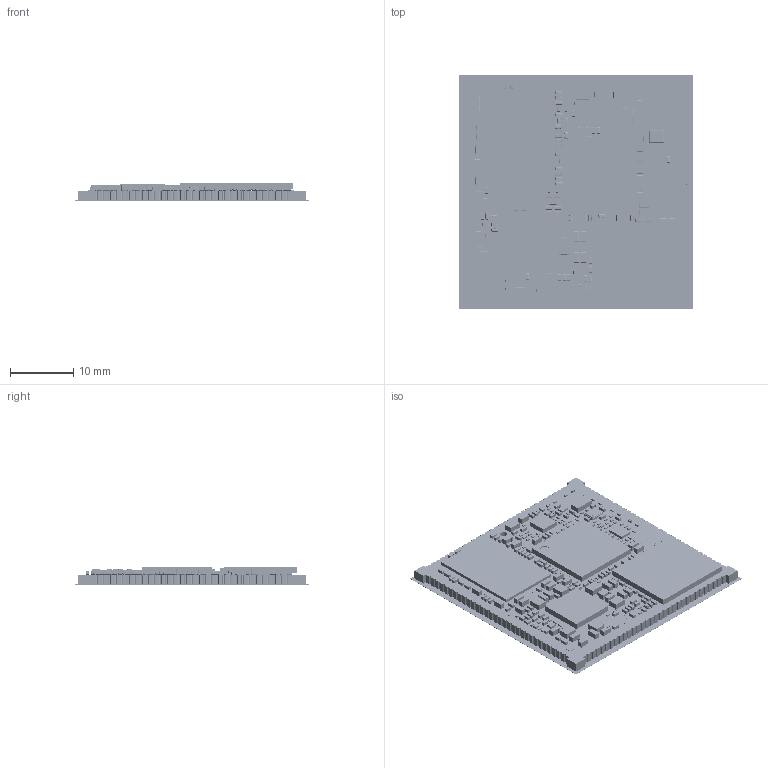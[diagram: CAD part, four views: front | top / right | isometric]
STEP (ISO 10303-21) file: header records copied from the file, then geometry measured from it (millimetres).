
FILE_DESCRIPTION(('STEP AP214'),'1');
FILE_NAME('Board1_BoardAndModels.step','2025-04-11T08:04:45',(' '),(' '),'Spatial InterOp 3D','XD3DPlugin XRACreate',' ');
FILE_SCHEMA(('automotive_design'));
Length unit declared in the file: millimetre
Products named in the file (135): Submodel-N:\GROUP\DEVELOP\HARDWARE\PCL-077_phyCORE-i.MX93\Design\1607.4\001\PCL-077\Board1_PCB\Layout\3D\Input_S\GRM155R71C224KA12D.xtd; GRM155R71C224KA12D; Submodel-CAP1363_part_simplified_0402-C3; DesignRootModel; Submodel-N:\GROUP\DEVELOP\HARDWARE\PCL-077_phyCORE-i.MX93\Design\1607.4\001\PCL-077\Board1_PCB\Layout\3D\Input_S\RC0603F1005CS.xtd; RC0603F1005CS; Submodel-RES5803_part_simplified_0201; Submodel-N:\GROUP\DEVELOP\HARDWARE\PCL-077_phyCORE-i.MX93\Design\1607.4\001\PCL-077\Board1_PCB\Layout\3D\Input_S\GRM155R70J105KA12J.xtd; GRM155R70J105KA12J; Submodel-CAP4183_part_simplified_0402-C3; Submodel-N:\GROUP\DEVELOP\HARDWARE\PCL-077_phyCORE-i.MX93\Design\1607.4\001\PCL-077\Board1_PCB\Layout\3D\Input_S\CRCW020110R7JNEF.xtd; CRCW020110R7JNEF; Submodel-RES5653_part_simplified_0201; Submodel-N:\GROUP\DEVELOP\HARDWARE\PCL-077_phyCORE-i.MX93\Design\1607.4\001\PCL-077\Board1_PCB\Layout\3D\Input_S\JUMP32.xtd; JUMP32; Submodel-JUMP32_part_simplified_J1X3-0402-C3; Submodel-N:\GROUP\DEVELOP\HARDWARE\PCL-077_phyCORE-i.MX93\Design\1607.4\001\PCL-077\Board1_PCB\Layout\3D\Input_S\REMOVE_CONN10323.xtd; REMOVE_CONN10323; Submodel-CONN10323_part_simplified_Testpunkt-1mm; Submodel-N:\GROUP\DEVELOP\HARDWARE\PCL-077_phyCORE-i.MX93\Design\1607.4\001\PCL-077\Board1_PCB\Layout\3D\Input_S\qr_4mm-QR Code 4mm.xtd; qr_4mm-QR Code 4mm; Submodel-MECH1053_part_simplified_DMC-4mm-Laser; Submodel-N:\GROUP\DEVELOP\HARDWARE\PCL-077_phyCORE-i.MX93\Design\1607.4\001\PCL-077\Board1_PCB\Layout\3D\Input_S\LQM2MPNR47NG0.xtd; LQM2MPNR47NG0; Submodel-IND2133_part_simplified_2016-DFE2016; Submodel-CAP3663_part_simplified_0402-C3; Submodel-N:\GROUP\DEVELOP\HARDWARE\PCL-077_phyCORE-i.MX93\Design\1607.4\001\PCL-077\Board1_PCB\Layout\3D\Input_S\GRM188Z71A106KA73D.xtd; GRM188Z71A106KA73D; Submodel-CAP3343_part_simplified_0603-C3; Submodel-N:\GROUP\DEVELOP\HARDWARE\PCL-077_phyCORE-i.MX93\Design\1607.4\001\PCL-077\Board1_PCB\Layout\3D\Input_S\XTAL_JTX310_JAU.xtd; XTAL_JTX310_JAU; Submodel-OSC873_part_simplified_QQ-JTX310-C3; Submodel-RES5693_part_simplified_0201; Submodel-N:\GROUP\DEVELOP\HARDWARE\PCL-077_phyCORE-i.MX93\Design\1607.4\001\PCL-077\Board1_PCB\Layout\3D\Input_S\OSC923.xtd; OSC923; Submodel-OSC923_part_simplified_QQ-2_comma_5x2mm-JXS22; Submodel-N:\GROUP\DEVELOP\HARDWARE\PCL-077_phyCORE-i.MX93\Design\1607.4\001\PCL-077\Board1_PCB\Layout\3D\Input_S\REMOVE_CONN2292.xtd; REMOVE_CONN2292; Submodel-CONN2292_part_simplified_Testpunkt-1mm; Submodel-N:\GROUP\DEVELOP\HARDWARE\PCL-077_phyCORE-i.MX93\Design\1607.4\001\PCL-077\Board1_PCB\Layout\3D\Input_S\GRM155R71C104KA88D.xtd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
Assembly tree (374 placements, depth 5):
  Board1_BoardAndModels
    DesignRootModel
      Submodel-CAP1363_part_simplified_0402-C3  x4
        Submodel-N:\GROUP\DEVELOP\HARDWARE\PCL-077_phyCORE-i.MX93\Design\1607.4\001\PCL-077\Board1_PCB\Layout\3D\Input_S\GRM155R71C224KA12D.xtd
          GRM155R71C224KA12D
      Submodel-RES5803_part_simplified_0201  x12
        Submodel-N:\GROUP\DEVELOP\HARDWARE\PCL-077_phyCORE-i.MX93\Design\1607.4\001\PCL-077\Board1_PCB\Layout\3D\Input_S\RC0603F1005CS.xtd
          RC0603F1005CS
      Submodel-CAP4183_part_simplified_0402-C3  x70
        Submodel-N:\GROUP\DEVELOP\HARDWARE\PCL-077_phyCORE-i.MX93\Design\1607.4\001\PCL-077\Board1_PCB\Layout\3D\Input_S\GRM155R70J105KA12J.xtd
          GRM155R70J105KA12J
      Submodel-RES5653_part_simplified_0201  x8
        Submodel-N:\GROUP\DEVELOP\HARDWARE\PCL-077_phyCORE-i.MX93\Design\1607.4\001\PCL-077\Board1_PCB\Layout\3D\Input_S\CRCW020110R7JNEF.xtd
          CRCW020110R7JNEF
      Submodel-JUMP32_part_simplified_J1X3-0402-C3  x6
        Submodel-N:\GROUP\DEVELOP\HARDWARE\PCL-077_phyCORE-i.MX93\Design\1607.4\001\PCL-077\Board1_PCB\Layout\3D\Input_S\JUMP32.xtd
          JUMP32
      Submodel-CONN10323_part_simplified_Testpunkt-1mm  x12
        Submodel-N:\GROUP\DEVELOP\HARDWARE\PCL-077_phyCORE-i.MX93\Design\1607.4\001\PCL-077\Board1_PCB\Layout\3D\Input_S\REMOVE_CONN10323.xtd
          REMOVE_CONN10323
      Submodel-MECH1053_part_simplified_DMC-4mm-Laser
        Submodel-N:\GROUP\DEVELOP\HARDWARE\PCL-077_phyCORE-i.MX93\Design\1607.4\001\PCL-077\Board1_PCB\Layout\3D\Input_S\qr_4mm-QR Code 4mm.xtd
          qr_4mm-QR Code 4mm
      Submodel-IND2133_part_simplified_2016-DFE2016  x6
        Submodel-N:\GROUP\DEVELOP\HARDWARE\PCL-077_phyCORE-i.MX93\Design\1607.4\001\PCL-077\Board1_PCB\Layout\3D\Input_S\LQM2MPNR47NG0.xtd
          LQM2MPNR47NG0
      Submodel-CAP3663_part_simplified_0402-C3  x2
        Submodel-N:\GROUP\DEVELOP\HARDWARE\PCL-077_phyCORE-i.MX93\Design\1607.4\001\PCL-077\Board1_PCB\Layout\3D\Input_S\GRM155R71C224KA12D.xtd
          GRM155R71C224KA12D
      Submodel-CAP3343_part_simplified_0603-C3  x28
        Submodel-N:\GROUP\DEVELOP\HARDWARE\PCL-077_phyCORE-i.MX93\Design\1607.4\001\PCL-077\Board1_PCB\Layout\3D\Input_S\GRM188Z71A106KA73D.xtd
          GRM188Z71A106KA73D
      Submodel-OSC873_part_simplified_QQ-JTX310-C3
        Submodel-N:\GROUP\DEVELOP\HARDWARE\PCL-077_phyCORE-i.MX93\Design\1607.4\001\PCL-077\Board1_PCB\Layout\3D\Input_S\XTAL_JTX310_JAU.xtd
          XTAL_JTX310_JAU
      Submodel-RES5693_part_simplified_0201  x6
        Submodel-N:\GROUP\DEVELOP\HARDWARE\PCL-077_phyCORE-i.MX93\Design\1607.4\001\PCL-077\Board1_PCB\Layout\3D\Input_S\RC0603F1005CS.xtd
          RC0603F1005CS
      Submodel-OSC923_part_simplified_QQ-2_comma_5x2mm-JXS22
        Submodel-N:\GROUP\DEVELOP\HARDWARE\PCL-077_phyCORE-i.MX93\Design\1607.4\001\PCL-077\Board1_PCB\Layout\3D\Input_S\OSC923.xtd
          OSC923
      Submodel-CONN2292_part_simplified_Testpunkt-1mm  x2
        Submodel-N:\GROUP\DEVELOP\HARDWARE\PCL-077_phyCORE-i.MX93\Design\1607.4\001\PCL-077\Board1_PCB\Layout\3D\Input_S\REMOVE_CONN2292.xtd
          REMOVE_CONN2292
      Submodel-CAP722_part_simplified_0402-C3  x25
        Submodel-N:\GROUP\DEVELOP\HARDWARE\PCL-077_phyCORE-i.MX93\Design\1607.4\001\PCL-077\Board1_PCB\Layout\3D\Input_S\GRM155R71C104KA88D.xtd
          GRM155R71C104KA88D
      Submodel-RES2872_part_simplified_0402-C3
        Submodel-N:\GROUP\DEVELOP\HARDWARE\PCL-077_phyCORE-i.MX93\Design\1607.4\001\PCL-077\Board1_PCB\Layout\3D\Input_S\RCC-0402-1000F.xtd
          RCC-0402-1000F
      Submodel-RES6713_part_simplified_0201
        Submodel-N:\GROUP\DEVELOP\HARDWARE\PCL-077_phyCORE-i.MX93\Design\1607.4\001\PCL-077\Board1_PCB\Layout\3D\Input_S\RC0603F1005CS_1.xtd
          RC0603F1005CS_1
      Submodel-RES5773_part_simplified_0201  x6
        Submodel-N:\GROUP\DEVELOP\HARDWARE\PCL-077_phyCORE-i.MX93\Design\1607.4\001\PCL-077\Board1_PCB\Layout\3D\Input_S\RC0603F1005CS.xtd
          RC0603F1005CS
      Submodel-CONN13663_part_simplified_Testpunkt-0.5mm  x3
        Submodel-N:\GROUP\DEVELOP\HARDWARE\PCL-077_phyCORE-i.MX93\Design\1607.4\001\PCL-077\Board1_PCB\Layout\3D\Input_S\REMOVE_CONN13663.xtd
          REMOVE_CONN13663
      Submodel-RES5703_part_simplified_0201  x13
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Bounding box: 37 x 37 x 2.87 mm (x, y, z)
Volume: 2347.7 mm3; surface area: 7895.6 mm2
Topology: 1379 solids, 1487 shells, 11841 faces, 28932 edges, 17573 vertices
Faces by surface type: plane 6424, cylinder 3269, sphere 2128, torus 16, bspline 4
Full cylindrical faces by diameter (mm): 0.16 x1, 1.1 x1, 1.375 x1
Entity records: 175194 total; most frequent: DIRECTION 22084, CARTESIAN_POINT 21569, ORIENTED_EDGE 19132, EDGE_CURVE 9602, AXIS2_PLACEMENT_3D 7475, LINE 7134, VECTOR 7134, VERTEX_POINT 6810
